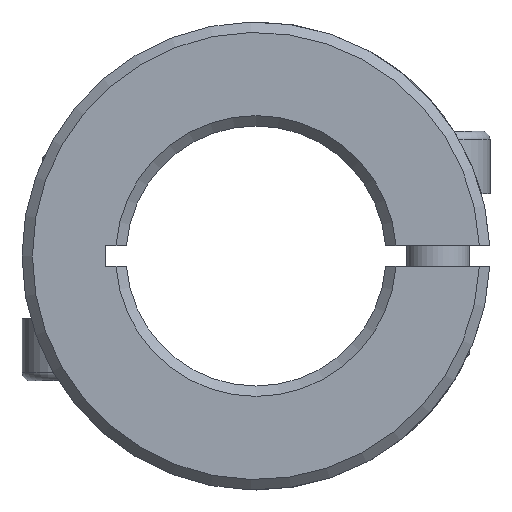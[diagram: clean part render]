
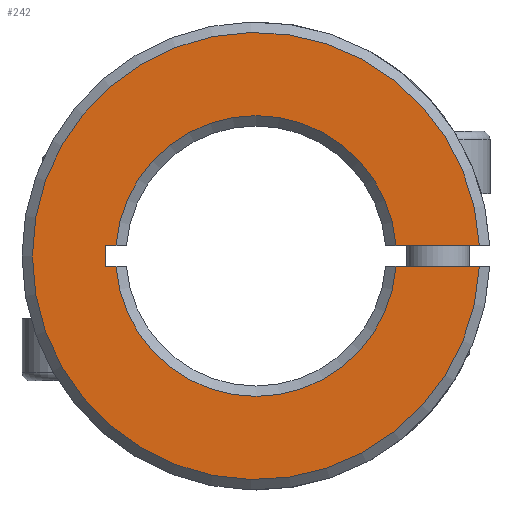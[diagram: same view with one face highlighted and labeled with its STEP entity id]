
A CAD part, front view. The second image highlights one B-rep face of the part: STEP entity #242.
In plain terms, the highlighted planar face has unit normal (0, -1, 0).
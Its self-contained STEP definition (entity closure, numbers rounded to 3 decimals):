
#242 = ADVANCED_FACE( '', ( #473 ), #474, .F. );
#473 = FACE_OUTER_BOUND( '', #721, .T. );
#474 = PLANE( '', #722 );
#721 = EDGE_LOOP( '', ( #1089, #1090, #1091, #1092, #1093, #1094, #1095, #1096 ) );
#722 = AXIS2_PLACEMENT_3D( '', #1097, #1098, #1099 );
#1089 = ORIENTED_EDGE( '', *, *, #1503, .F. );
#1090 = ORIENTED_EDGE( '', *, *, #1402, .T. );
#1091 = ORIENTED_EDGE( '', *, *, #1478, .F. );
#1092 = ORIENTED_EDGE( '', *, *, #1506, .F. );
#1093 = ORIENTED_EDGE( '', *, *, #1422, .T. );
#1094 = ORIENTED_EDGE( '', *, *, #1507, .T. );
#1095 = ORIENTED_EDGE( '', *, *, #1486, .T. );
#1096 = ORIENTED_EDGE( '', *, *, #1501, .T. );
#1097 = CARTESIAN_POINT( '', ( 0., -75., 0. ) );
#1098 = DIRECTION( '', ( 0., 1., 0. ) );
#1099 = DIRECTION( '', ( 0., 0., 1. ) );
#1402 = EDGE_CURVE( '', #1603, #1607, #1609, .T. );
#1422 = EDGE_CURVE( '', #1642, #1640, #1643, .T. );
#1478 = EDGE_CURVE( '', #1736, #1607, #1738, .T. );
#1486 = EDGE_CURVE( '', #1749, #1747, #1750, .T. );
#1501 = EDGE_CURVE( '', #1747, #1770, #1772, .F. );
#1503 = EDGE_CURVE( '', #1603, #1770, #1774, .T. );
#1506 = EDGE_CURVE( '', #1642, #1736, #1778, .T. );
#1507 = EDGE_CURVE( '', #1640, #1749, #1779, .T. );
#1603 = VERTEX_POINT( '', #1905 );
#1607 = VERTEX_POINT( '', #1912 );
#1609 = CIRCLE( '', #1917, 13.5 );
#1640 = VERTEX_POINT( '', #1967 );
#1642 = VERTEX_POINT( '', #1972 );
#1643 = LINE( '', #1973, #1974 );
#1736 = VERTEX_POINT( '', #2595 );
#1738 = LINE( '', #2598, #2599 );
#1747 = VERTEX_POINT( '', #2609 );
#1749 = VERTEX_POINT( '', #2614 );
#1750 = LINE( '', #2615, #2616 );
#1770 = VERTEX_POINT( '', #2648 );
#1772 = CIRCLE( '', #2653, 21.5 );
#1774 = LINE( '', #2655, #2656 );
#1778 = LINE( '', #2660, #2661 );
#1779 = CIRCLE( '', #2662, 13.5 );
#1905 = CARTESIAN_POINT( '', ( 13.463, -75., -1. ) );
#1912 = CARTESIAN_POINT( '', ( -13.463, -75., -1. ) );
#1917 = AXIS2_PLACEMENT_3D( '', #2802, #2803, #2804 );
#1967 = CARTESIAN_POINT( '', ( -13.463, -75., 1. ) );
#1972 = CARTESIAN_POINT( '', ( -14.5, -75., 1. ) );
#1973 = CARTESIAN_POINT( '', ( 0., -75., 1. ) );
#1974 = VECTOR( '', #2823, 1000. );
#2595 = CARTESIAN_POINT( '', ( -14.5, -75., -1. ) );
#2598 = CARTESIAN_POINT( '', ( 0., -75., -1. ) );
#2599 = VECTOR( '', #2893, 1000. );
#2609 = CARTESIAN_POINT( '', ( 21.477, -75., 1. ) );
#2614 = CARTESIAN_POINT( '', ( 13.463, -75., 1. ) );
#2615 = CARTESIAN_POINT( '', ( 0., -75., 1. ) );
#2616 = VECTOR( '', #2901, 1000. );
#2648 = CARTESIAN_POINT( '', ( 21.477, -75., -1. ) );
#2653 = AXIS2_PLACEMENT_3D( '', #2917, #2918, #2919 );
#2655 = CARTESIAN_POINT( '', ( 0., -75., -1. ) );
#2656 = VECTOR( '', #2920, 1000. );
#2660 = CARTESIAN_POINT( '', ( -14.5, -75., 0. ) );
#2661 = VECTOR( '', #2924, 1000. );
#2662 = AXIS2_PLACEMENT_3D( '', #2925, #2926, #2927 );
#2802 = CARTESIAN_POINT( '', ( 0., -75., 0. ) );
#2803 = DIRECTION( '', ( 0., 1., 0. ) );
#2804 = DIRECTION( '', ( 0., 0., 1. ) );
#2823 = DIRECTION( '', ( 1., 0., 0. ) );
#2893 = DIRECTION( '', ( 1., 0., 0. ) );
#2901 = DIRECTION( '', ( 1., 0., 0. ) );
#2917 = CARTESIAN_POINT( '', ( 0., -75., 0. ) );
#2918 = DIRECTION( '', ( 0., 1., 0. ) );
#2919 = DIRECTION( '', ( 0., 0., 1. ) );
#2920 = DIRECTION( '', ( 1., 0., 0. ) );
#2924 = DIRECTION( '', ( 0., 0., -1. ) );
#2925 = CARTESIAN_POINT( '', ( 0., -75., 0. ) );
#2926 = DIRECTION( '', ( 0., 1., 0. ) );
#2927 = DIRECTION( '', ( 0., 0., 1. ) );
